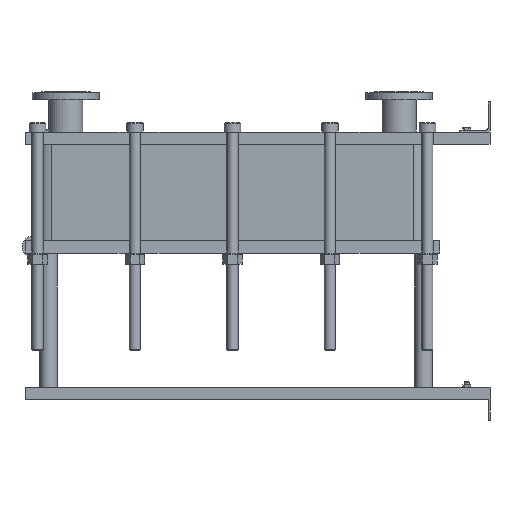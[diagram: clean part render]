
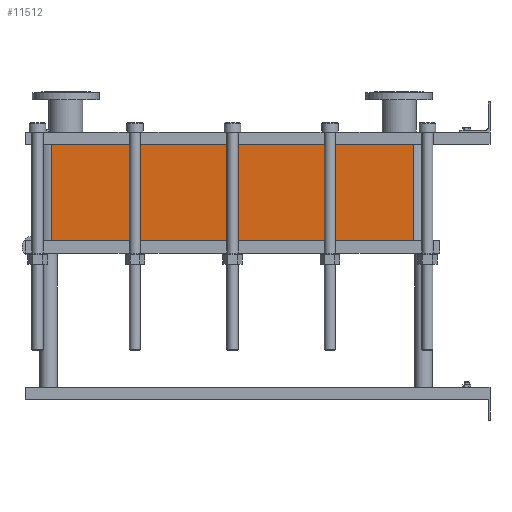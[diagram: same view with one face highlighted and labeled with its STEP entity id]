
A CAD part, left-side view. The second image highlights one B-rep face of the part: STEP entity #11512.
In plain terms, the highlighted planar face has unit normal (-1, 0, 0).
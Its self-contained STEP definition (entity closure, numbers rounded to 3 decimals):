
#1129=LINE('',#23232,#2102);
#1130=LINE('',#23236,#2103);
#1131=LINE('',#23238,#2104);
#1132=LINE('',#23239,#2105);
#2102=VECTOR('',#15887,10.);
#2103=VECTOR('',#15892,10.);
#2104=VECTOR('',#15893,10.);
#2105=VECTOR('',#15894,10.);
#3267=FACE_OUTER_BOUND('',#4093,.T.);
#4093=EDGE_LOOP('',(#10103,#10104,#10105,#10106));
#5642=VERTEX_POINT('',#23229);
#5643=VERTEX_POINT('',#23231);
#5644=VERTEX_POINT('',#23235);
#5645=VERTEX_POINT('',#23237);
#7159=EDGE_CURVE('',#5643,#5642,#1129,.T.);
#7161=EDGE_CURVE('',#5642,#5644,#1130,.T.);
#7162=EDGE_CURVE('',#5645,#5644,#1131,.T.);
#7163=EDGE_CURVE('',#5645,#5643,#1132,.T.);
#10103=ORIENTED_EDGE('',*,*,#7161,.T.);
#10104=ORIENTED_EDGE('',*,*,#7162,.F.);
#10105=ORIENTED_EDGE('',*,*,#7163,.T.);
#10106=ORIENTED_EDGE('',*,*,#7159,.T.);
#10857=PLANE('',#12751);
#11512=ADVANCED_FACE('',(#3267),#10857,.T.);
#12751=AXIS2_PLACEMENT_3D('',#23234,#15890,#15891);
#15887=DIRECTION('',(0.,0.,-1.));
#15890=DIRECTION('center_axis',(-1.,0.,0.));
#15891=DIRECTION('ref_axis',(0.,1.,0.));
#15892=DIRECTION('',(0.,-1.,0.));
#15893=DIRECTION('',(0.,0.,-1.));
#15894=DIRECTION('',(0.,1.,0.));
#23229=CARTESIAN_POINT('',(-200.,1414.,-310.5));
#23231=CARTESIAN_POINT('',(-200.,1414.,0.));
#23232=CARTESIAN_POINT('',(-200.,1414.,0.));
#23234=CARTESIAN_POINT('Origin',(-200.,248.,0.));
#23235=CARTESIAN_POINT('',(-200.,248.,-310.5));
#23236=CARTESIAN_POINT('',(-200.,539.5,-310.5));
#23237=CARTESIAN_POINT('',(-200.,248.,0.));
#23238=CARTESIAN_POINT('',(-200.,248.,0.));
#23239=CARTESIAN_POINT('',(-200.,248.,0.));
